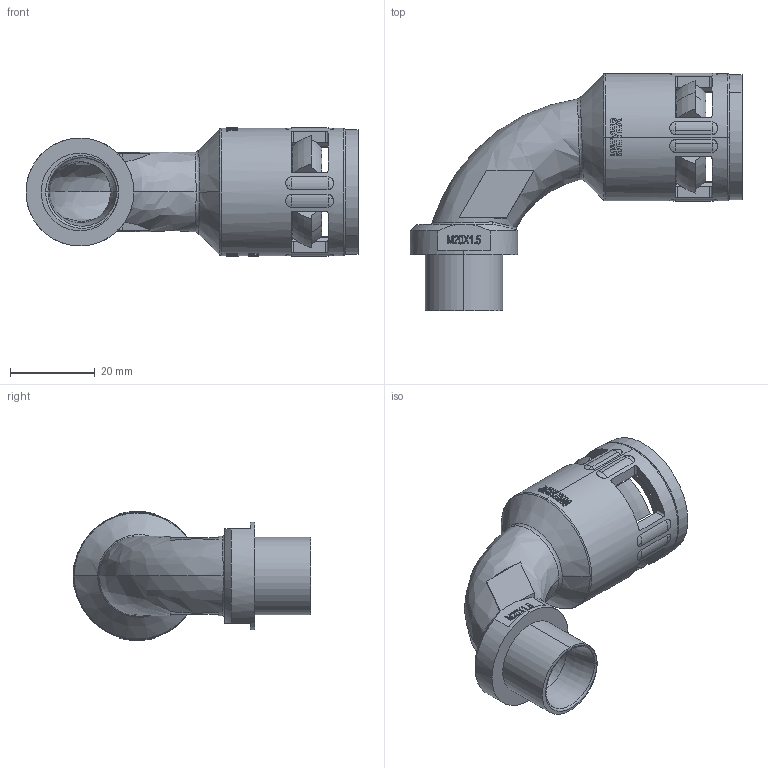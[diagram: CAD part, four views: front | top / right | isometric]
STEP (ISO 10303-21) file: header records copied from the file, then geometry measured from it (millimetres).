
FILE_DESCRIPTION (( 'STEP AP203' ), '1' );
FILE_NAME ('WQBW-M20-AD21.2.STEP', '2016-03-25T06:20:14', ( '' ), ( '' ), 'SwSTEP 2.0', 'SolidWorks 2010', '' );
FILE_SCHEMA (( 'CONFIG_CONTROL_DESIGN' ));
Length unit declared in the file: millimetre
Products named in the file (4): WQBW-M20-AD21.2; WQBW-M20-AD21.2-01; GFD-AD21.2; NSK-AD21.2
Assembly tree (3 placements, depth 2):
  WQBW-M20-AD21.2
    NSK-AD21.2
    GFD-AD21.2
    WQBW-M20-AD21.2-01
Bounding box: 78.18 x 55.98 x 30.38 mm (x, y, z)
Volume: 3482.9 mm3; surface area: 17970.7 mm2
Topology: 5 solids, 7 shells, 526 faces, 1396 edges, 888 vertices
Faces by surface type: plane 259, bspline 117, cylinder 78, cone 50, torus 22
Entity records: 26574 total; most frequent: CARTESIAN_POINT 14174, ORIENTED_EDGE 2730, DIRECTION 2168, EDGE_CURVE 1368, VERTEX_POINT 888, AXIS2_PLACEMENT_3D 784, LINE 600, VECTOR 600
